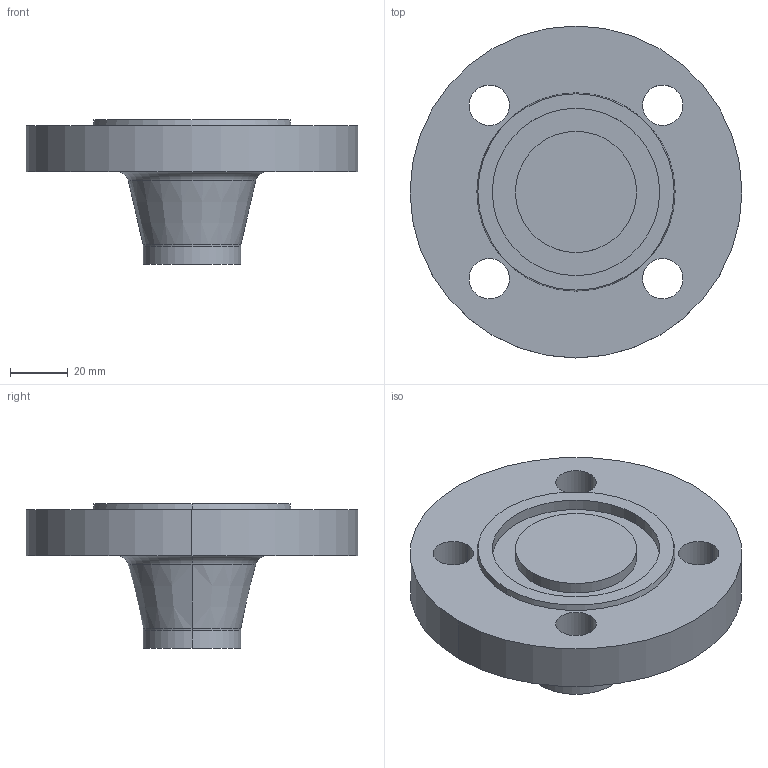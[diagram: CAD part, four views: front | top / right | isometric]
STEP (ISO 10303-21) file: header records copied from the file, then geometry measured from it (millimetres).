
FILE_DESCRIPTION (( 'STEP AP214' ), '1' );
FILE_NAME ('PN40 DN25 Type 21(ii) - Type D Face.STEP', '2018-12-29T20:14:42', ( '' ), ( '' ), 'SwSTEP 2.0', 'SolidWorks 2019', '' );
FILE_SCHEMA (( 'AUTOMOTIVE_DESIGN' ));
Length unit declared in the file: millimetre
Products named in the file (1): PN40 DN25 Type 21(ii) - Type D Face
Bounding box: 115 x 115 x 50 mm (x, y, z)
Volume: 196519.8 mm3; surface area: 32827 mm2
Topology: 1 solids, 1 shells, 30 faces, 66 edges, 42 vertices
Faces by surface type: cylinder 16, plane 6, torus 4, cone 4
Entity records: 898 total; most frequent: DIRECTION 174, CARTESIAN_POINT 139, ORIENTED_EDGE 132, AXIS2_PLACEMENT_3D 77, EDGE_CURVE 66, CIRCLE 46, EDGE_LOOP 42, VERTEX_POINT 42
